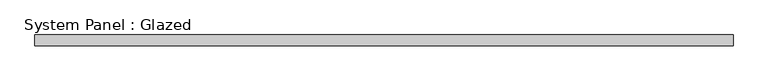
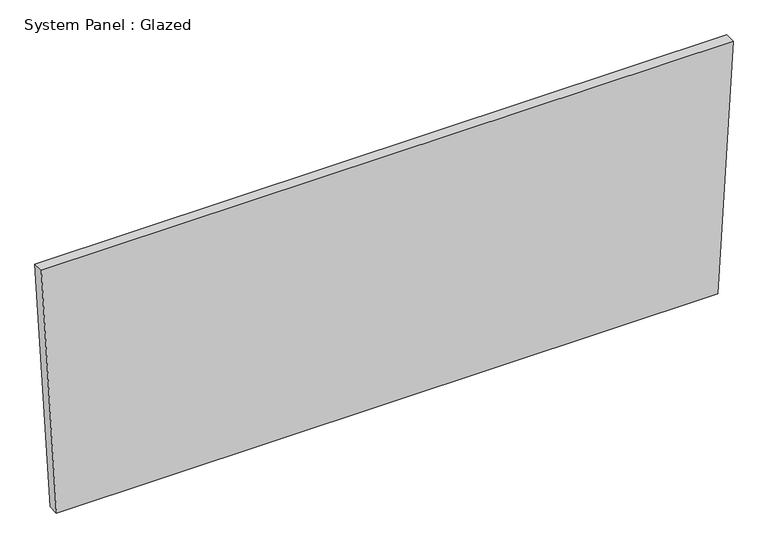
"""IFC4 building model written with IfcOpenShell, lengths in millimetres: plate geometry, System Panel : Glazed."""

from ifc_helpers import new_model, si_unit, frame, origin, place, context, project, spatial, polyline, outline, extrude, source, transform, mapped, element, save


def system_panel_glazed_5303e616(model_context):
    return source(origin(), model_context, "Body", "SweptSolid", [
        extrude(outline(polyline([(0.0, -768.4933047), (0.0, 768.4933047), (608.5841426, 803.6714423), (608.5841426, -803.6714423), (0.0, -768.4933047)])), frame((0.0, -44.45, 0.0), z_axis=(0.0, 1.0, 0.0), x_axis=(0.0, 0.0, 1.0)), (0.0, 0.0, 1.0), 25.4),
    ])


if __name__ == "__main__":
    model = new_model("IFC4")
    model_context = context("Model", 3, world=origin())
    ifc_project = project(units=[si_unit("LENGTHUNIT", "METRE", prefix="MILLI")], contexts=[model_context])
    site = spatial("IfcSite", under=ifc_project)
    building = spatial("IfcBuilding", under=site)
    placement = place(None, origin())
    system_panel_glazed_shape = system_panel_glazed_5303e616(model_context)
    element("IfcPlate", 1, ObjectType="System Panel : Glazed", at=placement, inside=building, context=model_context, shape_type="MappedRepresentation", body=[
        mapped(system_panel_glazed_shape, transform((0.0, 0.0, 0.0), x_axis=(1.0, 0.0, 0.0), y_axis=(0.0, 1.0, 0.0), z_axis=(0.0, 0.0, 1.0))),
    ])
    save(model, "model.ifc")
